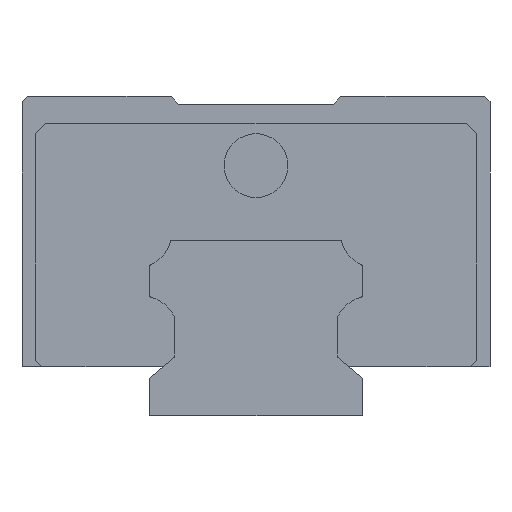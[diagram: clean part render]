
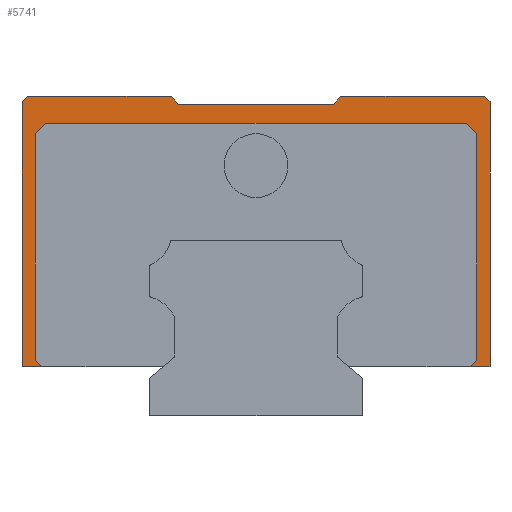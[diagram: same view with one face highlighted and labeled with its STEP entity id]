
A CAD part, left-side view. The second image highlights one B-rep face of the part: STEP entity #5741.
In plain terms, the highlighted planar face has unit normal (-1, 0, 0).
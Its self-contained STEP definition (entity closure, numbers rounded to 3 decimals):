
#25 = DIRECTION ( 'NONE',  ( 0., 0.643, 0.766 ) ) ;
#33 = DIRECTION ( 'NONE',  ( 0., -0.707, -0.707 ) ) ;
#47 = VECTOR ( 'NONE', #390, 1000. ) ;
#199 = DIRECTION ( 'NONE',  ( 0., -1., 0. ) ) ;
#207 = ORIENTED_EDGE ( 'NONE', *, *, #2523, .F. ) ;
#224 = VERTEX_POINT ( 'NONE', #379 ) ;
#235 = LINE ( 'NONE', #5027, #5175 ) ;
#361 = CARTESIAN_POINT ( 'NONE',  ( -27., 9., 4.6 ) ) ;
#379 = CARTESIAN_POINT ( 'NONE',  ( -27., 7.333, 29.25 ) ) ;
#390 = DIRECTION ( 'NONE',  ( 0., 1., 0. ) ) ;
#439 = VECTOR ( 'NONE', #4614, 1000. ) ;
#478 = VERTEX_POINT ( 'NONE', #2773 ) ;
#481 = VERTEX_POINT ( 'NONE', #5180 ) ;
#505 = DIRECTION ( 'NONE',  ( 0., 0.707, -0.707 ) ) ;
#533 = EDGE_CURVE ( 'NONE', #5328, #4305, #2488, .T. ) ;
#577 = DIRECTION ( 'NONE',  ( 0., 0.643, -0.766 ) ) ;
#678 = CARTESIAN_POINT ( 'NONE',  ( -27., 22., 29.5 ) ) ;
#692 = CARTESIAN_POINT ( 'NONE',  ( -27., -20.75, 5.2 ) ) ;
#716 = EDGE_CURVE ( 'NONE', #1995, #481, #2270, .T. ) ;
#759 = VECTOR ( 'NONE', #4105, 1000. ) ;
#808 = CARTESIAN_POINT ( 'NONE',  ( -27., 7.963, 30. ) ) ;
#843 = VERTEX_POINT ( 'NONE', #1871 ) ;
#1211 = VECTOR ( 'NONE', #25, 1000. ) ;
#1235 = VECTOR ( 'NONE', #3743, 1000. ) ;
#1340 = VERTEX_POINT ( 'NONE', #2294 ) ;
#1361 = LINE ( 'NONE', #3251, #4603 ) ;
#1419 = DIRECTION ( 'NONE',  ( 0., 0.707, 0.707 ) ) ;
#1435 = ORIENTED_EDGE ( 'NONE', *, *, #5780, .T. ) ;
#1452 = CARTESIAN_POINT ( 'NONE',  ( -27., -19.75, 27.5 ) ) ;
#1486 = EDGE_CURVE ( 'NONE', #3789, #843, #3961, .T. ) ;
#1495 = ORIENTED_EDGE ( 'NONE', *, *, #4589, .T. ) ;
#1548 = VECTOR ( 'NONE', #199, 1000. ) ;
#1568 = CARTESIAN_POINT ( 'NONE',  ( -27., -7.333, 29.25 ) ) ;
#1571 = EDGE_CURVE ( 'NONE', #5823, #5328, #5942, .T. ) ;
#1684 = PLANE ( 'NONE',  #5488 ) ;
#1703 = CARTESIAN_POINT ( 'NONE',  ( -27., 22., 30. ) ) ;
#1807 = VECTOR ( 'NONE', #1419, 1000. ) ;
#1813 = CARTESIAN_POINT ( 'NONE',  ( -27., -19.625, 27.625 ) ) ;
#1871 = CARTESIAN_POINT ( 'NONE',  ( -27., -22., 4.6 ) ) ;
#1959 = LINE ( 'NONE', #2904, #439 ) ;
#1968 = EDGE_CURVE ( 'NONE', #5891, #5017, #235, .T. ) ;
#1995 = VERTEX_POINT ( 'NONE', #2072 ) ;
#2072 = CARTESIAN_POINT ( 'NONE',  ( -27., 20.75, 26.5 ) ) ;
#2155 = DIRECTION ( 'NONE',  ( 0., 0., -1. ) ) ;
#2221 = LINE ( 'NONE', #1813, #759 ) ;
#2270 = LINE ( 'NONE', #4991, #3273 ) ;
#2294 = CARTESIAN_POINT ( 'NONE',  ( -27., -21.5, 30. ) ) ;
#2301 = VERTEX_POINT ( 'NONE', #678 ) ;
#2354 = LINE ( 'NONE', #5720, #1211 ) ;
#2436 = LINE ( 'NONE', #3392, #1235 ) ;
#2441 = CARTESIAN_POINT ( 'NONE',  ( -27., -20.15, 4.6 ) ) ;
#2488 = LINE ( 'NONE', #5832, #2604 ) ;
#2523 = EDGE_CURVE ( 'NONE', #3633, #4746, #5093, .T. ) ;
#2540 = EDGE_CURVE ( 'NONE', #843, #5823, #2436, .T. ) ;
#2558 = LINE ( 'NONE', #5904, #1548 ) ;
#2564 = ORIENTED_EDGE ( 'NONE', *, *, #2765, .F. ) ;
#2603 = CARTESIAN_POINT ( 'NONE',  ( -27., 20.15, 4.6 ) ) ;
#2604 = VECTOR ( 'NONE', #3383, 1000. ) ;
#2686 = VECTOR ( 'NONE', #3154, 1000. ) ;
#2743 = VERTEX_POINT ( 'NONE', #1568 ) ;
#2765 = EDGE_CURVE ( 'NONE', #3342, #1340, #2558, .T. ) ;
#2773 = CARTESIAN_POINT ( 'NONE',  ( -27., 21.5, 30. ) ) ;
#2774 = CARTESIAN_POINT ( 'NONE',  ( -27., 22., 4.6 ) ) ;
#2802 = CARTESIAN_POINT ( 'NONE',  ( -27., -7.333, 29.25 ) ) ;
#2813 = CARTESIAN_POINT ( 'NONE',  ( -27., -2.375, 49.625 ) ) ;
#2815 = ORIENTED_EDGE ( 'NONE', *, *, #2540, .F. ) ;
#2897 = ORIENTED_EDGE ( 'NONE', *, *, #1968, .F. ) ;
#2904 = CARTESIAN_POINT ( 'NONE',  ( -27., 21.5, 30. ) ) ;
#2921 = EDGE_CURVE ( 'NONE', #4305, #5891, #2221, .T. ) ;
#2926 = ORIENTED_EDGE ( 'NONE', *, *, #6102, .F. ) ;
#2963 = CARTESIAN_POINT ( 'NONE',  ( -27., 22., 4.6 ) ) ;
#3154 = DIRECTION ( 'NONE',  ( 0., -0.707, 0.707 ) ) ;
#3197 = VECTOR ( 'NONE', #3597, 1000. ) ;
#3237 = ORIENTED_EDGE ( 'NONE', *, *, #1486, .F. ) ;
#3251 = CARTESIAN_POINT ( 'NONE',  ( -27., 11.775, -3.775 ) ) ;
#3273 = VECTOR ( 'NONE', #2155, 1000. ) ;
#3308 = VERTEX_POINT ( 'NONE', #808 ) ;
#3342 = VERTEX_POINT ( 'NONE', #5166 ) ;
#3358 = CARTESIAN_POINT ( 'NONE',  ( -27., -22., 29.5 ) ) ;
#3383 = DIRECTION ( 'NONE',  ( 0., 0., 1. ) ) ;
#3392 = CARTESIAN_POINT ( 'NONE',  ( -27., -22., 4.6 ) ) ;
#3403 = CARTESIAN_POINT ( 'NONE',  ( -27., -22., 28. ) ) ;
#3478 = VECTOR ( 'NONE', #3758, 1000. ) ;
#3560 = CARTESIAN_POINT ( 'NONE',  ( -27., -33.775, 18.225 ) ) ;
#3568 = DIRECTION ( 'NONE',  ( 1., 0., 0. ) ) ;
#3595 = VECTOR ( 'NONE', #505, 1000. ) ;
#3597 = DIRECTION ( 'NONE',  ( 0., -1., 0. ) ) ;
#3633 = VERTEX_POINT ( 'NONE', #2603 ) ;
#3647 = DIRECTION ( 'NONE',  ( 0., 0., 1. ) ) ;
#3651 = EDGE_CURVE ( 'NONE', #478, #3308, #5941, .T. ) ;
#3743 = DIRECTION ( 'NONE',  ( 0., 1., 0. ) ) ;
#3758 = DIRECTION ( 'NONE',  ( 0., 1., 0. ) ) ;
#3789 = VERTEX_POINT ( 'NONE', #4725 ) ;
#3829 = ORIENTED_EDGE ( 'NONE', *, *, #2921, .F. ) ;
#3927 = ORIENTED_EDGE ( 'NONE', *, *, #5506, .T. ) ;
#3961 = LINE ( 'NONE', #3403, #5142 ) ;
#3965 = ORIENTED_EDGE ( 'NONE', *, *, #533, .F. ) ;
#3983 = DIRECTION ( 'NONE',  ( 0., 1., 0. ) ) ;
#4032 = FACE_OUTER_BOUND ( 'NONE', #4233, .T. ) ;
#4039 = EDGE_CURVE ( 'NONE', #4746, #2301, #5026, .T. ) ;
#4105 = DIRECTION ( 'NONE',  ( 0., 0.707, 0.707 ) ) ;
#4110 = CARTESIAN_POINT ( 'NONE',  ( -27., 19.75, 27.5 ) ) ;
#4233 = EDGE_LOOP ( 'NONE', ( #2926, #4383, #4266, #2897, #3829, #3965, #4280, #2815, #3237, #1495, #2564, #4616, #3927, #4867, #6062, #1435, #4948, #207 ) ) ;
#4266 = ORIENTED_EDGE ( 'NONE', *, *, #5096, .F. ) ;
#4280 = ORIENTED_EDGE ( 'NONE', *, *, #1571, .F. ) ;
#4305 = VERTEX_POINT ( 'NONE', #5300 ) ;
#4383 = ORIENTED_EDGE ( 'NONE', *, *, #716, .F. ) ;
#4443 = CARTESIAN_POINT ( 'NONE',  ( -27., -7.963, 30. ) ) ;
#4589 = EDGE_CURVE ( 'NONE', #3789, #1340, #6067, .T. ) ;
#4603 = VECTOR ( 'NONE', #33, 1000. ) ;
#4609 = EDGE_CURVE ( 'NONE', #224, #3308, #2354, .T. ) ;
#4614 = DIRECTION ( 'NONE',  ( 0., 0.707, -0.707 ) ) ;
#4616 = ORIENTED_EDGE ( 'NONE', *, *, #5910, .T. ) ;
#4725 = CARTESIAN_POINT ( 'NONE',  ( -27., -22., 29.5 ) ) ;
#4746 = VERTEX_POINT ( 'NONE', #2963 ) ;
#4844 = LINE ( 'NONE', #4443, #5893 ) ;
#4867 = ORIENTED_EDGE ( 'NONE', *, *, #4609, .T. ) ;
#4923 = CARTESIAN_POINT ( 'NONE',  ( -27., -22., 30. ) ) ;
#4948 = ORIENTED_EDGE ( 'NONE', *, *, #4039, .F. ) ;
#4991 = CARTESIAN_POINT ( 'NONE',  ( -27., 20.75, 30. ) ) ;
#5017 = VERTEX_POINT ( 'NONE', #4110 ) ;
#5026 = LINE ( 'NONE', #2774, #5619 ) ;
#5027 = CARTESIAN_POINT ( 'NONE',  ( -27., -22., 27.5 ) ) ;
#5093 = LINE ( 'NONE', #361, #47 ) ;
#5096 = EDGE_CURVE ( 'NONE', #5017, #1995, #6115, .T. ) ;
#5142 = VECTOR ( 'NONE', #5287, 1000. ) ;
#5166 = CARTESIAN_POINT ( 'NONE',  ( -27., -7.963, 30. ) ) ;
#5175 = VECTOR ( 'NONE', #3983, 1000. ) ;
#5180 = CARTESIAN_POINT ( 'NONE',  ( -27., 20.75, 5.2 ) ) ;
#5287 = DIRECTION ( 'NONE',  ( 0., 0., -1. ) ) ;
#5300 = CARTESIAN_POINT ( 'NONE',  ( -27., -20.75, 26.5 ) ) ;
#5328 = VERTEX_POINT ( 'NONE', #692 ) ;
#5488 = AXIS2_PLACEMENT_3D ( 'NONE', #4923, #3568, #5987 ) ;
#5506 = EDGE_CURVE ( 'NONE', #2743, #224, #5580, .T. ) ;
#5580 = LINE ( 'NONE', #2802, #3478 ) ;
#5619 = VECTOR ( 'NONE', #3647, 1000. ) ;
#5720 = CARTESIAN_POINT ( 'NONE',  ( -27., 7.333, 29.25 ) ) ;
#5741 = ADVANCED_FACE ( 'NONE', ( #4032 ), #1684, .F. ) ;
#5780 = EDGE_CURVE ( 'NONE', #478, #2301, #1959, .T. ) ;
#5823 = VERTEX_POINT ( 'NONE', #2441 ) ;
#5832 = CARTESIAN_POINT ( 'NONE',  ( -27., -20.75, 30. ) ) ;
#5891 = VERTEX_POINT ( 'NONE', #1452 ) ;
#5893 = VECTOR ( 'NONE', #577, 1000. ) ;
#5904 = CARTESIAN_POINT ( 'NONE',  ( -27., 22., 30. ) ) ;
#5910 = EDGE_CURVE ( 'NONE', #3342, #2743, #4844, .T. ) ;
#5941 = LINE ( 'NONE', #1703, #3197 ) ;
#5942 = LINE ( 'NONE', #3560, #2686 ) ;
#5987 = DIRECTION ( 'NONE',  ( 0., 1., 0. ) ) ;
#6062 = ORIENTED_EDGE ( 'NONE', *, *, #3651, .F. ) ;
#6067 = LINE ( 'NONE', #3358, #1807 ) ;
#6102 = EDGE_CURVE ( 'NONE', #481, #3633, #1361, .T. ) ;
#6115 = LINE ( 'NONE', #2813, #3595 ) ;
